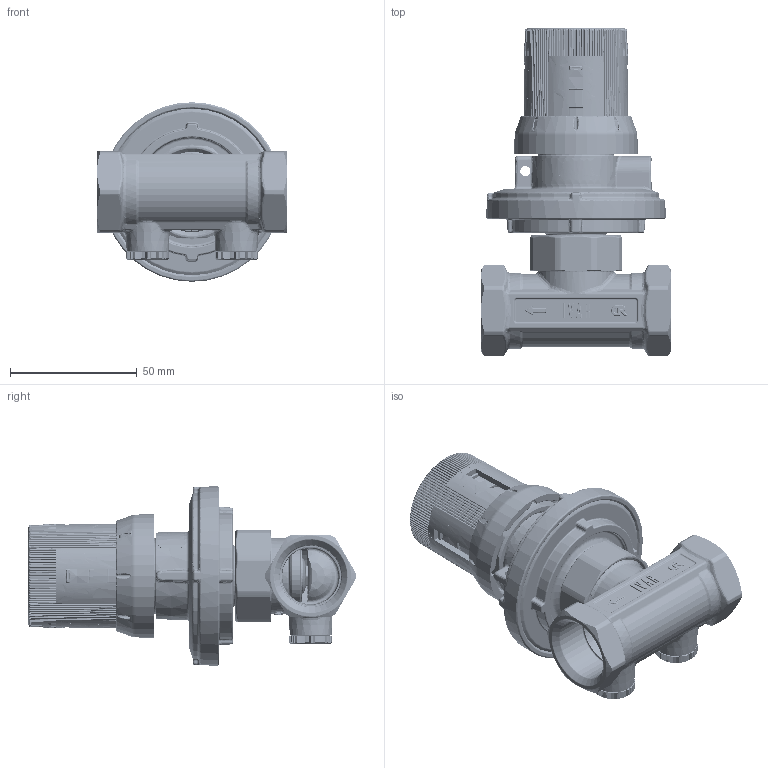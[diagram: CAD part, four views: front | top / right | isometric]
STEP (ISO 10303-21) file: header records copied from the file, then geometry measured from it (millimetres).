
FILE_DESCRIPTION(/* description */ (''),/* implementation_level */ '2;1');
FILE_NAME(/* name */ 'F:\Артём\00000\Работа удаленка\130\VT.041.G.30005.stp',/* time_stamp */ '2021-04-05T15:38:59+03:00',/* author */ ('almis'),/* organization */ (''),/* preprocessor_version */ 'ST-DEVELOPER v18',/* originating_system */ 'Autodesk Inventor 2020',/* authorisation */ '');
FILE_SCHEMA (('AUTOMOTIVE_DESIGN { 1 0 10303 214 3 1 1 }'));
Length unit declared in the file: millimetre
Products named in the file (1): 550115 differenziale DN20  50-300
Bounding box: 75 x 129.7 x 70.89 mm (x, y, z)
Volume: 133996.6 mm3; surface area: 99554.3 mm2
Topology: 2 solids, 27 shells, 10083 faces, 26533 edges, 16514 vertices
Faces by surface type: bspline 3680, cylinder 2301, plane 2075, torus 919, cone 795, sphere 313
Full cylindrical faces by diameter (mm): 3.5 x2, 4 x1, 4.25 x1, 5 x4, 6 x3, 6.2 x2, 6.5 x1, 6.8 x1, 7 x6, 7.2 x1, 7.8 x2, 8 x1, 8.6 x1, 9.4 x3, 9.5 x4, 10 x1, 10.5 x3, 10.6 x1, 11.5 x4, 11.8 x1, 12 x3, 13 x2, 13.7 x2, 14 x2, 14.1 x1, 14.2 x1, 15 x2, 15.2 x2, 16 x2, 16.8 x1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
Entity records: 427932 total; most frequent: CARTESIAN_POINT 190861, ORIENTED_EDGE 51840, DIRECTION 43457, EDGE_CURVE 25920, AXIS2_PLACEMENT_3D 17724, VERTEX_POINT 16364, EDGE_LOOP 10402, FACE_OUTER_BOUND 9933
